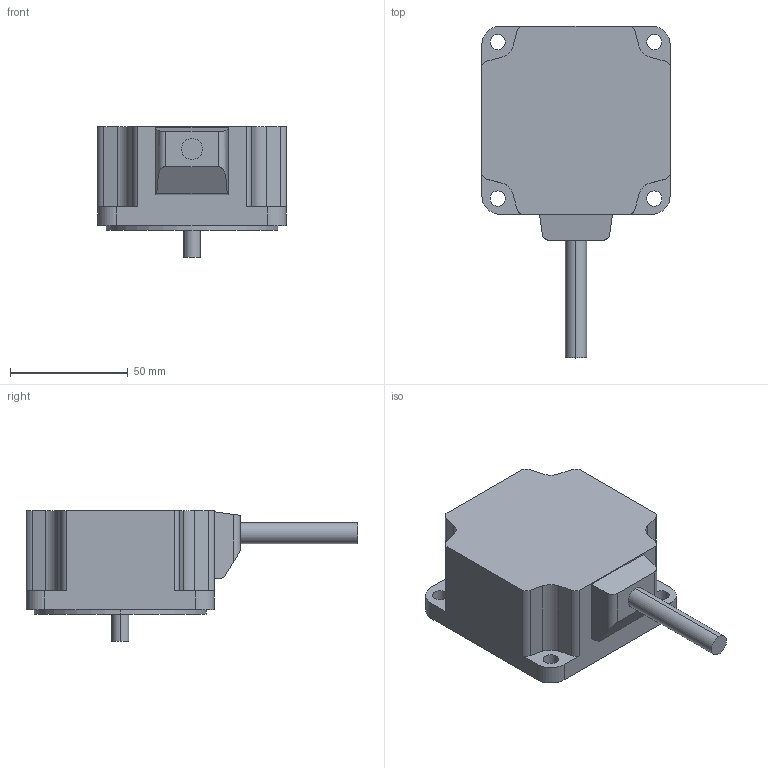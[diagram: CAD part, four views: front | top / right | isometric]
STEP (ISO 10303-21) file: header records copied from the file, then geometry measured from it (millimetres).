
FILE_DESCRIPTION (( 'STEP AP203' ), '1' );
FILE_NAME ('A1887-GN.step', '2024-04-24T08:08:52', ( '' ), ( '' ), 'SwSTEP 2.0', 'SolidWorks 2023', '' );
FILE_SCHEMA (( 'CONFIG_CONTROL_DESIGN' ));
Length unit declared in the file: millimetre
Products named in the file (1): A1887-GN
Bounding box: 80 x 141 x 55.5 mm (x, y, z)
Volume: 261159.4 mm3; surface area: 28362.5 mm2
Topology: 1 solids, 1 shells, 59 faces, 159 edges, 106 vertices
Faces by surface type: cylinder 32, plane 27
Entity records: 1966 total; most frequent: CARTESIAN_POINT 337, DIRECTION 335, ORIENTED_EDGE 318, EDGE_CURVE 159, AXIS2_PLACEMENT_3D 120, VERTEX_POINT 106, LINE 95, VECTOR 95
